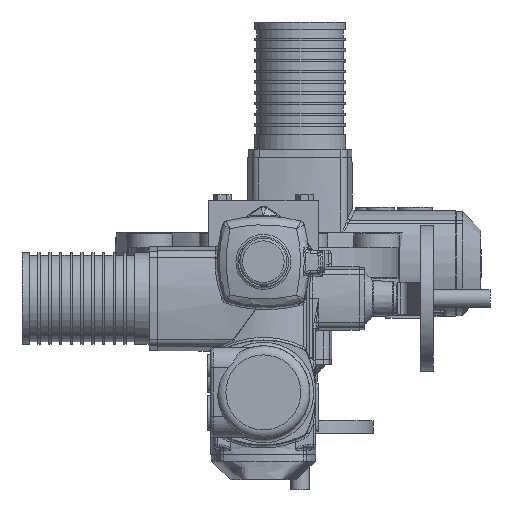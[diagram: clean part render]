
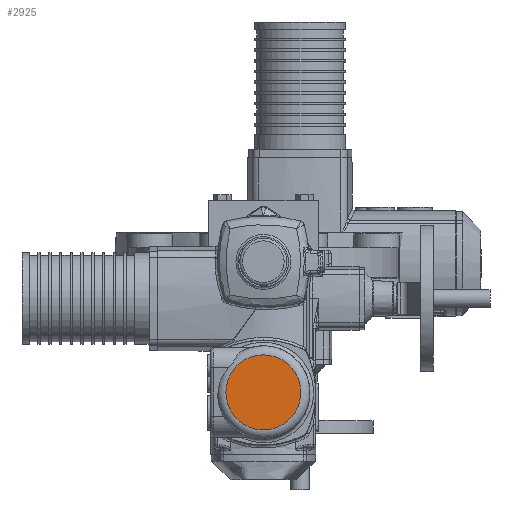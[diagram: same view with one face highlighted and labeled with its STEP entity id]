
A CAD part, top view. The second image highlights one B-rep face of the part: STEP entity #2925.
In plain terms, the highlighted planar face has unit normal (0, 0, 1) as drawn and (0, 0, -1) by its records, which use the part's own axes.
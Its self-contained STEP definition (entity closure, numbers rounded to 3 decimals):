
#2925 = ADVANCED_FACE( '', ( #6759 ), #6760, .F. );
#6759 = FACE_OUTER_BOUND( '', #15185, .T. );
#6760 = PLANE( '', #15186 );
#15185 = EDGE_LOOP( '', ( #28242 ) );
#15186 = AXIS2_PLACEMENT_3D( '', #28243, #28244, #28245 );
#28242 = ORIENTED_EDGE( '', *, *, #37402, .T. );
#28243 = CARTESIAN_POINT( '', ( 143., 0., -209. ) );
#28244 = DIRECTION( '', ( 0., 0., 1. ) );
#28245 = DIRECTION( '', ( 1., 0., 0. ) );
#37402 = EDGE_CURVE( '', #43560, #43560, #43561, .F. );
#43560 = VERTEX_POINT( '', #59790 );
#43561 = CIRCLE( '', #59791, 41. );
#59790 = CARTESIAN_POINT( '', ( 184., 0., -209. ) );
#59791 = AXIS2_PLACEMENT_3D( '', #72611, #72612, #72613 );
#72611 = CARTESIAN_POINT( '', ( 143., 0., -209. ) );
#72612 = DIRECTION( '', ( 0., 0., 1. ) );
#72613 = DIRECTION( '', ( 1., 0., 0. ) );
